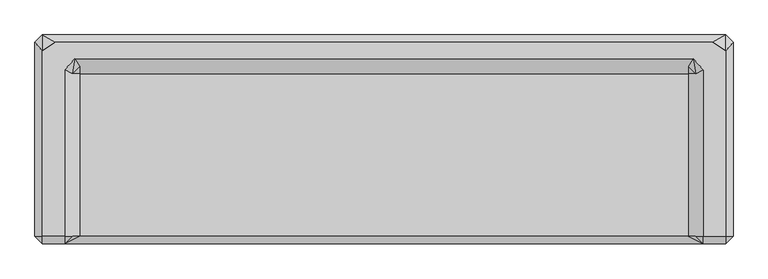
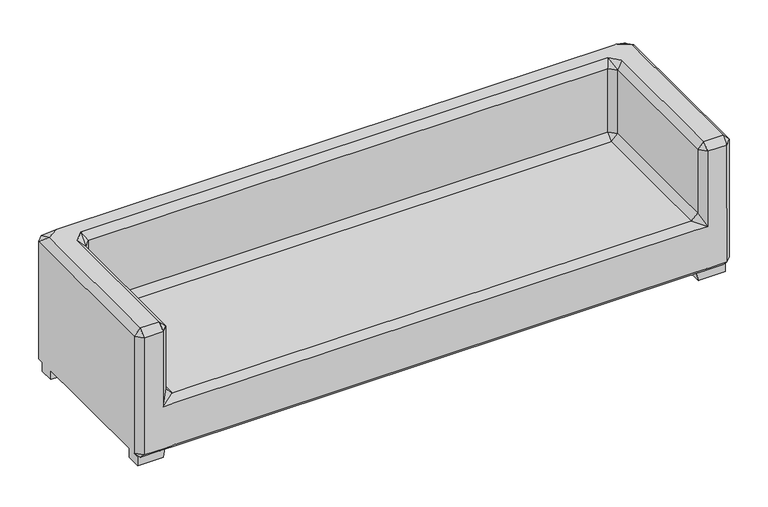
"""IFC4 building model written with IfcOpenShell, lengths in millimetres: furniture geometry, Enscape AssetDefinition - Sofá 035 3 plazas : Enscape AssetDefinition - Sofá 035 3 plazas."""

from ifc_helpers import new_model, si_unit, origin, place, context, project, spatial, triangles, source, transform, mapped, element, save


def furniture_1fa0e306(model_context):
    return source(origin(), model_context, "Body", "Tessellation", [
        triangles([(1794.520697, 552.3872495, 436.2552029), (1794.520697, 552.3872495, 835.2978516), (1794.520697, 552.3872495, 360.3190312), (1794.520697, -434.7829817, 360.3190312), (1756.5526657, -472.7510493, 360.3190312), (1756.5526657, 508.8824558, 56.9521242), (1756.5526657, 590.3553535, 94.9202145), (1794.520697, 552.3872495, 94.9202145), (1794.520697, -434.7829817, 94.9202145), (1756.5526657, -472.7510493, 94.9202145), (1642.6245907, -472.7510493, 94.9202145), (1756.5526657, -434.7829817, 56.9521242), (1642.6245907, -472.7510493, 360.3190312), (1794.520697, -434.7829817, 835.2978516), (1756.5526657, -472.7510493, 436.2552029), (1794.520697, -434.7829817, 436.2552029), (1642.6245907, -472.7510493, 835.2978516), (1604.6565594, -434.7829817, 436.2552029), (1642.6245907, -472.7510493, 436.2552029), (1756.5526657, -472.7510493, 835.2978516), (1642.6245907, -434.7829817, 873.2659555), (1756.5526657, -434.7829817, 873.2659555), (1604.6565594, 392.9212564, 835.2978516), (1604.6565594, -434.7829817, 835.2978516), (1590.8265896, 468.857428, 873.2659555), (1566.6885281, 430.8893603, 835.2978516), (1566.6885281, 430.8893603, 436.2552029), (1604.6565594, 392.9212564, 436.2552029), (1642.6245907, 413.1952732, 873.2659555), (1756.5526657, 508.8824558, 873.2659555), (-1556.7028004, 468.857428, 873.2659555), (1566.6885281, 392.9212564, 398.2871352), (-1532.5647388, 430.8893603, 436.2552029), (-1532.5647388, 392.9212564, 398.2871352), (-1532.5647388, -434.7829817, 398.2871352), (-1570.5327702, 392.9212564, 436.2552029), (-1532.5647388, 430.8893603, 835.2978516), (-1570.5327702, -434.7829817, 436.2552029), (-1570.5327702, -434.7829817, 835.2978516), (-1570.5327702, 392.9212564, 835.2978516), (-1608.5008015, 413.1952732, 873.2659555), (-1722.4287312, -434.7829817, 873.2659555), (-1608.5008015, -434.7829817, 873.2659555), (-1608.5008015, -472.7510493, 436.2552029), (-1608.5008015, -472.7510493, 835.2978516), (-1722.4287312, -472.7510493, 436.2552029), (-1722.4287312, -472.7510493, 835.2978516), (-1760.3969078, -434.7829817, 835.2978516), (1690.27924, 552.3872495, 873.2659555), (-1722.4287312, 508.8824558, 873.2659555), (-1656.1554508, 552.3872495, 873.2659555), (-1722.4287312, 590.3553535, 835.2978516), (-1760.3969078, 552.3872495, 835.2978516), (1756.5526657, 590.3553535, 835.2978516), (-1722.4287312, 590.3553535, 436.2552029), (1756.5526657, 590.3553535, 436.2552029), (-1722.4287312, 590.3553535, 360.3190312), (1756.5526657, 590.3553535, 360.3190312), (-1760.3969078, 552.3872495, 360.3190312), (-1722.4287312, 590.3553535, 94.9202145), (-1760.3969078, 552.3872495, 436.2552029), (-1760.3969078, 552.3872495, 94.9202145), (-1760.3969078, -434.7829817, 436.2552029), (-1722.4287312, -472.7510493, 360.3190312), (-1760.3969078, -434.7829817, 360.3190312), (-1760.3969078, -434.7829817, 94.9202145), (-1722.4287312, -472.7510493, 94.9202145), (-1722.4287312, 508.8824558, 56.9521242), (-1608.5008015, 413.1952732, 56.9521242), (-1722.4287312, -434.7829817, 56.9521242), (-1608.5008015, -472.7510493, 94.9202145), (-1532.5647388, -472.7510493, 94.9202145), (-1608.5008015, -434.7829817, 56.9521242), (-1608.5008015, -472.7510493, 360.3190312), (-1532.5647388, -472.7510493, 360.3190312), (1566.6885281, -472.7510493, 360.3190312), (-1532.5647388, -434.7829817, 56.9521242), (1566.6885281, -434.7829817, 56.9521242), (1566.6885281, -472.7510493, 94.9202145), (1566.6885281, -434.7829817, 398.2871352), (1642.6245907, -434.7829817, 56.9521242), (1566.6885281, 392.9212564, 56.9521242), (1642.6245907, 413.1952732, 56.9521242), (1590.8265896, 468.857428, 56.9521242), (1690.27924, 552.3872495, 56.9521242), (-1532.5647388, 392.9212564, 56.9521242), (-1556.7028004, 468.857428, 56.9521242), (-1656.1554508, 552.3872495, 56.9521242), (1775.0079346, -336.8082207, 56.9521242), (1775.0079346, -423.8462583, 0.0), (1775.0079346, -423.8462583, 56.9521242), (1775.0079346, -336.8082207, 0.0), (1604.1516483, -336.8082207, 56.9521242), (1613.6436562, -336.8082207, 0.0), (1613.6436562, -423.8462583, 0.0), (1604.1516483, -423.8462583, 56.9521242), (-1731.9208843, -423.8462583, 0.0), (-1731.9208843, -336.8082207, 0.0), (-1580.0486137, -423.8462583, 0.0), (-1731.9208843, -423.8462583, 56.9521242), (-1580.0486137, -336.8082207, 0.0), (-1731.9208843, -336.8082207, 56.9521242), (-1570.5564606, -423.8462583, 56.9521242), (-1570.5564606, -336.8082207, 56.9521242), (-1731.9208843, 474.8412197, 0.0), (-1731.9208843, 474.8412197, 56.9521242), (-1731.9208843, 561.879221, 0.0), (-1580.0486137, 561.879221, 0.0), (-1580.0486137, 474.8412197, 0.0), (-1570.5564606, 561.879221, 56.9521242), (-1570.5564606, 474.8412197, 56.9521242), (-1731.9208843, 561.879221, 56.9521242), (1613.6436562, 561.879221, 0.0), (1604.1516483, 561.879221, 56.9521242), (1613.6436562, 474.8412197, 0.0), (1775.0079346, 561.879221, 56.9521242), (1775.0079346, 561.879221, 0.0), (1775.0079346, 474.8412197, 0.0), (1604.1516483, 474.8412197, 56.9521242), (1775.0079346, 474.8412197, 56.9521242)], [[115, 118, 120], [115, 120, 119], [114, 115, 119], [115, 117, 118], [119, 120, 116], [116, 120, 118], [119, 116, 114], [116, 118, 117], [115, 113, 117], [114, 113, 115], [113, 114, 116], [113, 116, 117], [108, 107, 112], [105, 112, 107], [105, 106, 112], [112, 106, 111], [112, 111, 110], [108, 112, 110], [109, 111, 106], [107, 108, 109], [109, 108, 110], [109, 106, 105], [107, 109, 105], [109, 110, 111], [104, 100, 103], [99, 101, 104], [99, 103, 100], [99, 104, 103], [98, 101, 99], [104, 102, 100], [101, 98, 102], [101, 102, 104], [97, 100, 102], [98, 99, 97], [99, 100, 97], [97, 102, 98], [91, 96, 95], [91, 93, 96], [93, 95, 96], [93, 94, 95], [95, 94, 92], [95, 92, 90], [91, 95, 90], [91, 89, 93], [94, 93, 89], [89, 91, 90], [94, 89, 92], [89, 90, 92], [6, 85, 7], [88, 69, 68], [88, 87, 69], [86, 69, 87], [86, 87, 84], [84, 87, 88], [84, 88, 85], [83, 84, 85], [83, 85, 6], [12, 83, 6], [86, 84, 82], [82, 84, 83], [12, 81, 83], [81, 82, 83], [11, 81, 12], [18, 80, 13], [35, 76, 80], [80, 76, 13], [79, 11, 13], [79, 13, 76], [81, 78, 82], [11, 79, 78], [11, 78, 81], [78, 86, 82], [78, 77, 86], [72, 77, 78], [72, 79, 76], [72, 78, 79], [35, 75, 76], [72, 76, 75], [74, 75, 35], [71, 72, 75], [71, 75, 74], [86, 77, 73], [73, 77, 72], [86, 73, 69], [73, 72, 71], [69, 73, 70], [69, 70, 68], [73, 71, 67], [73, 67, 70], [74, 67, 71], [74, 64, 67], [68, 70, 66], [64, 66, 67], [66, 70, 67], [64, 65, 66], [63, 65, 64], [61, 65, 63], [65, 62, 66], [68, 66, 62], [65, 59, 62], [61, 59, 65], [60, 7, 85], [60, 62, 59], [68, 62, 60], [60, 85, 88], [68, 60, 88], [60, 58, 7], [60, 57, 58], [60, 59, 57], [61, 57, 59], [57, 56, 58], [57, 55, 56], [61, 55, 57], [30, 2, 54], [55, 54, 56], [30, 54, 49], [55, 52, 54], [52, 49, 54], [55, 61, 53], [55, 53, 52], [48, 53, 61], [48, 61, 63], [50, 53, 48], [50, 52, 53], [52, 51, 49], [50, 51, 52], [31, 49, 51], [41, 31, 51], [41, 51, 50], [41, 50, 42], [50, 48, 42], [47, 48, 63], [48, 47, 42], [46, 64, 74], [47, 63, 46], [63, 64, 46], [46, 74, 44], [42, 47, 45], [45, 47, 46], [45, 46, 44], [42, 45, 43], [41, 42, 43], [43, 40, 41], [40, 31, 41], [43, 39, 40], [44, 39, 45], [43, 45, 39], [44, 38, 39], [38, 44, 74], [74, 35, 38], [38, 35, 34], [39, 38, 36], [38, 34, 36], [39, 36, 40], [40, 37, 31], [36, 37, 40], [36, 33, 37], [36, 34, 33], [35, 80, 32], [32, 33, 34], [35, 32, 34], [80, 18, 28], [80, 28, 32], [32, 27, 33], [28, 27, 32], [27, 37, 33], [31, 37, 26], [27, 26, 37], [31, 25, 49], [31, 26, 25], [29, 30, 49], [29, 49, 25], [27, 28, 23], [25, 26, 23], [23, 28, 18], [27, 23, 26], [25, 23, 29], [23, 18, 24], [23, 24, 21], [23, 21, 29], [29, 21, 22], [29, 22, 30], [14, 2, 30], [14, 30, 22], [20, 22, 21], [20, 14, 22], [18, 17, 24], [20, 21, 17], [17, 21, 24], [18, 19, 17], [13, 19, 18], [14, 20, 15], [15, 20, 17], [15, 17, 19], [14, 15, 16], [5, 15, 19], [5, 19, 13], [5, 16, 15], [10, 5, 13], [11, 12, 10], [10, 13, 11], [9, 12, 6], [10, 12, 9], [58, 8, 7], [9, 6, 8], [6, 7, 8], [4, 5, 10], [5, 4, 16], [4, 10, 9], [8, 4, 9], [58, 3, 8], [8, 3, 4], [3, 16, 4], [54, 2, 1], [3, 1, 16], [58, 56, 1], [1, 2, 14], [54, 1, 56], [58, 1, 3], [1, 14, 16]]),
    ])


if __name__ == "__main__":
    model = new_model("IFC4")
    model_context = context("Model", 3, world=origin())
    ifc_project = project(units=[si_unit("LENGTHUNIT", "METRE", prefix="MILLI")], contexts=[model_context])
    site = spatial("IfcSite", under=ifc_project)
    building = spatial("IfcBuilding", under=site)
    placement = place(None, origin())
    furniture_shape = furniture_1fa0e306(model_context)
    element("IfcFurniture", 1, ObjectType="Enscape AssetDefinition - Sofá 035 3 plazas : Enscape AssetDefinition - Sofá 035 3 plazas", at=placement, inside=building, context=model_context, shape_type="MappedRepresentation", body=[
        mapped(furniture_shape, transform((0.0, 0.0, 0.0), x_axis=(1.0, 0.0, 0.0), y_axis=(0.0, 1.0, 0.0), z_axis=(0.0, 0.0, 1.0))),
    ])
    save(model, "model.ifc")
